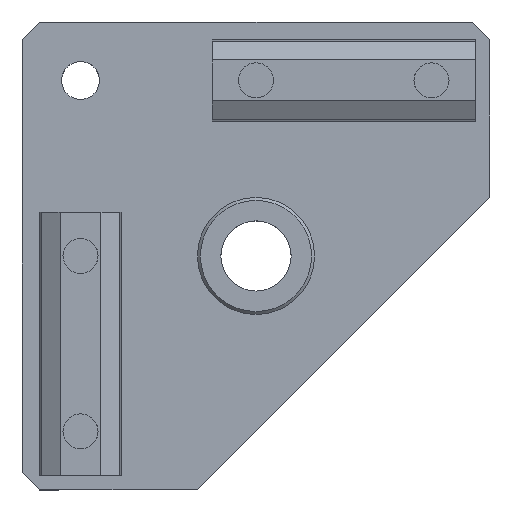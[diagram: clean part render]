
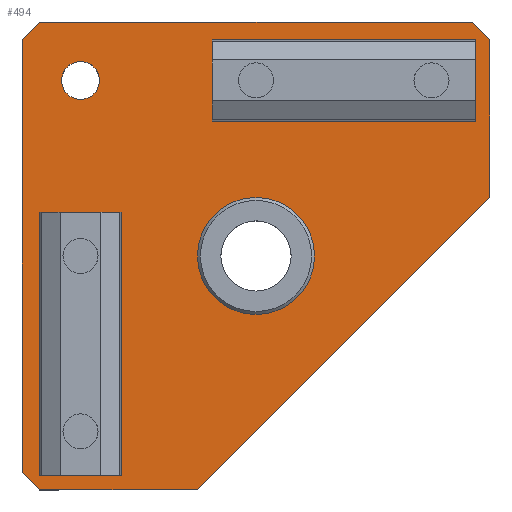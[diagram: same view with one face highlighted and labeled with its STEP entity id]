
A CAD part, top view. The second image highlights one B-rep face of the part: STEP entity #494.
In plain terms, the highlighted planar face has unit normal (0, 0, 1) as drawn and (0, 0, -1) by its records, which use the part's own axes.
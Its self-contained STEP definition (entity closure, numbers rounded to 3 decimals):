
#494=ADVANCED_FACE('',(#871,#872,#873,#874,#875,#876,#877),#878,.F.);
#871=FACE_BOUND('',#1339,.T.);
#872=FACE_BOUND('',#1340,.T.);
#873=FACE_BOUND('',#1341,.T.);
#874=FACE_OUTER_BOUND('',#1342,.T.);
#875=FACE_BOUND('',#1343,.T.);
#876=FACE_BOUND('',#1344,.T.);
#877=FACE_BOUND('',#1345,.T.);
#878=PLANE('',#1346);
#1339=EDGE_LOOP('',(#1801));
#1340=EDGE_LOOP('',(#1802));
#1341=EDGE_LOOP('',(#1803));
#1342=EDGE_LOOP('',(#1804,#1805,#1806,#1807,#1808,#1809,#1810,#1811));
#1343=EDGE_LOOP('',(#1812));
#1344=EDGE_LOOP('',(#1813));
#1345=EDGE_LOOP('',(#1814));
#1346=AXIS2_PLACEMENT_3D('',#1815,#1816,#1817);
#1801=ORIENTED_EDGE('',*,*,#2775,.F.);
#1802=ORIENTED_EDGE('',*,*,#2776,.F.);
#1803=ORIENTED_EDGE('',*,*,#2777,.F.);
#1804=ORIENTED_EDGE('',*,*,#2778,.F.);
#1805=ORIENTED_EDGE('',*,*,#2779,.F.);
#1806=ORIENTED_EDGE('',*,*,#2780,.F.);
#1807=ORIENTED_EDGE('',*,*,#2781,.F.);
#1808=ORIENTED_EDGE('',*,*,#2782,.F.);
#1809=ORIENTED_EDGE('',*,*,#2783,.F.);
#1810=ORIENTED_EDGE('',*,*,#2784,.F.);
#1811=ORIENTED_EDGE('',*,*,#2785,.F.);
#1812=ORIENTED_EDGE('',*,*,#2786,.F.);
#1813=ORIENTED_EDGE('',*,*,#2787,.F.);
#1814=ORIENTED_EDGE('',*,*,#2788,.T.);
#1815=CARTESIAN_POINT('',(9.131,5.992,0.0));
#1816=DIRECTION('',(0.0,0.0,1.0));
#1817=DIRECTION('',(1.0,0.0,0.0));
#2775=EDGE_CURVE('',#3143,#3143,#3144,.T.);
#2776=EDGE_CURVE('',#3145,#3145,#3146,.T.);
#2777=EDGE_CURVE('',#3147,#3147,#3148,.T.);
#2778=EDGE_CURVE('',#3149,#3150,#3151,.T.);
#2779=EDGE_CURVE('',#3152,#3149,#3153,.T.);
#2780=EDGE_CURVE('',#3154,#3152,#3155,.T.);
#2781=EDGE_CURVE('',#3156,#3154,#3157,.T.);
#2782=EDGE_CURVE('',#3158,#3156,#3159,.T.);
#2783=EDGE_CURVE('',#3160,#3158,#3161,.T.);
#2784=EDGE_CURVE('',#3162,#3160,#3163,.T.);
#2785=EDGE_CURVE('',#3150,#3162,#3164,.T.);
#2786=EDGE_CURVE('',#3165,#3165,#3166,.T.);
#2787=EDGE_CURVE('',#3167,#3167,#3168,.T.);
#2788=EDGE_CURVE('',#3169,#3169,#3170,.T.);
#3143=VERTEX_POINT('',#3680);
#3144=CIRCLE('',#3681,3.25);
#3145=VERTEX_POINT('',#3682);
#3146=CIRCLE('',#3683,3.25);
#3147=VERTEX_POINT('',#3684);
#3148=CIRCLE('',#3685,3.25);
#3149=VERTEX_POINT('',#3686);
#3150=VERTEX_POINT('',#3687);
#3151=LINE('',#3688,#3689);
#3152=VERTEX_POINT('',#3690);
#3153=LINE('',#3691,#3692);
#3154=VERTEX_POINT('',#3693);
#3155=LINE('',#3694,#3695);
#3156=VERTEX_POINT('',#3696);
#3157=LINE('',#3697,#3698);
#3158=VERTEX_POINT('',#3699);
#3159=LINE('',#3700,#3701);
#3160=VERTEX_POINT('',#3702);
#3161=LINE('',#3703,#3704);
#3162=VERTEX_POINT('',#3705);
#3163=LINE('',#3706,#3707);
#3164=LINE('',#3708,#3709);
#3165=VERTEX_POINT('',#3710);
#3166=CIRCLE('',#3711,3.25);
#3167=VERTEX_POINT('',#3712);
#3168=CIRCLE('',#3713,3.25);
#3169=VERTEX_POINT('',#3714);
#3170=CIRCLE('',#3715,10.0);
#3680=CARTESIAN_POINT('',(6.75,10.0,0.0));
#3681=AXIS2_PLACEMENT_3D('',#4361,#4362,#4363);
#3682=CARTESIAN_POINT('',(66.75,40.0,0.0));
#3683=AXIS2_PLACEMENT_3D('',#4364,#4365,#4366);
#3684=CARTESIAN_POINT('',(66.75,70.0,0.0));
#3685=AXIS2_PLACEMENT_3D('',#4367,#4368,#4369);
#3686=CARTESIAN_POINT('',(80.0,3.,0.0));
#3687=CARTESIAN_POINT('',(80.0,77.0,0.0));
#3688=CARTESIAN_POINT('',(80.0,3.,0.0));
#3689=VECTOR('',#4370,1.0);
#3690=CARTESIAN_POINT('',(77.0,0.,0.0));
#3691=CARTESIAN_POINT('',(77.0,0.,0.0));
#3692=VECTOR('',#4371,1.0);
#3693=CARTESIAN_POINT('',(3.0,0.,0.0));
#3694=CARTESIAN_POINT('',(3.0,0.,0.0));
#3695=VECTOR('',#4372,1.0);
#3696=CARTESIAN_POINT('',(0.0,3.,0.0));
#3697=CARTESIAN_POINT('',(0.0,3.,0.0));
#3698=VECTOR('',#4373,1.0);
#3699=CARTESIAN_POINT('',(0.0,30.0,0.0));
#3700=CARTESIAN_POINT('',(0.0,30.0,0.0));
#3701=VECTOR('',#4374,1.0);
#3702=CARTESIAN_POINT('',(50.0,80.0,0.0));
#3703=CARTESIAN_POINT('',(50.0,80.0,0.0));
#3704=VECTOR('',#4375,1.0);
#3705=CARTESIAN_POINT('',(77.0,80.0,0.0));
#3706=CARTESIAN_POINT('',(77.0,80.0,0.0));
#3707=VECTOR('',#4376,1.0);
#3708=CARTESIAN_POINT('',(80.0,77.0,0.0));
#3709=VECTOR('',#4377,1.0);
#3710=CARTESIAN_POINT('',(66.75,10.0,0.0));
#3711=AXIS2_PLACEMENT_3D('',#4378,#4379,#4380);
#3712=CARTESIAN_POINT('',(36.75,10.0,0.0));
#3713=AXIS2_PLACEMENT_3D('',#4381,#4382,#4383);
#3714=CARTESIAN_POINT('',(40.0,30.0,0.0));
#3715=AXIS2_PLACEMENT_3D('',#4384,#4385,#4386);
#4361=CARTESIAN_POINT('',(10.0,10.0,0.0));
#4362=DIRECTION('',(0.0,0.0,-1.0));
#4363=DIRECTION('',(-1.0,0.0,0.0));
#4364=CARTESIAN_POINT('',(70.0,40.0,0.0));
#4365=DIRECTION('',(0.0,0.0,-1.0));
#4366=DIRECTION('',(-1.0,0.0,0.0));
#4367=CARTESIAN_POINT('',(70.0,70.0,0.0));
#4368=DIRECTION('',(0.0,0.0,-1.0));
#4369=DIRECTION('',(-1.0,0.0,0.0));
#4370=DIRECTION('',(0.0,1.0,0.0));
#4371=DIRECTION('',(0.707,0.707,0.0));
#4372=DIRECTION('',(1.0,0.0,0.0));
#4373=DIRECTION('',(0.707,-0.707,0.0));
#4374=DIRECTION('',(0.0,-1.0,0.0));
#4375=DIRECTION('',(-0.707,-0.707,0.0));
#4376=DIRECTION('',(-1.0,0.0,0.0));
#4377=DIRECTION('',(-0.707,0.707,0.0));
#4378=CARTESIAN_POINT('',(70.0,10.0,0.0));
#4379=DIRECTION('',(0.0,0.0,-1.0));
#4380=DIRECTION('',(-1.0,0.0,0.0));
#4381=CARTESIAN_POINT('',(40.0,10.0,0.0));
#4382=DIRECTION('',(0.0,0.0,-1.0));
#4383=DIRECTION('',(-1.0,0.0,0.0));
#4384=CARTESIAN_POINT('',(40.0,40.0,0.0));
#4385=DIRECTION('',(0.0,0.,1.0));
#4386=DIRECTION('',(0.0,-1.0,0.));
